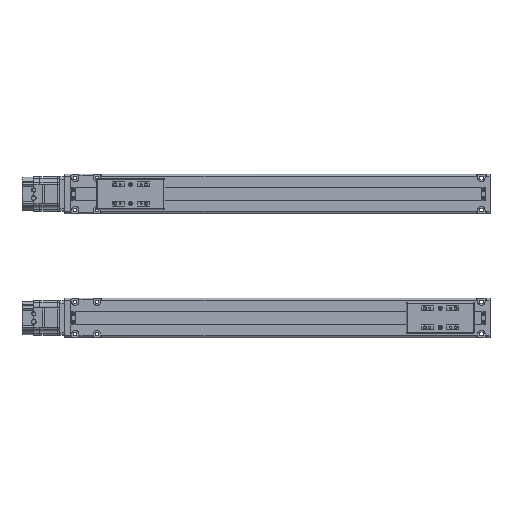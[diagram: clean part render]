
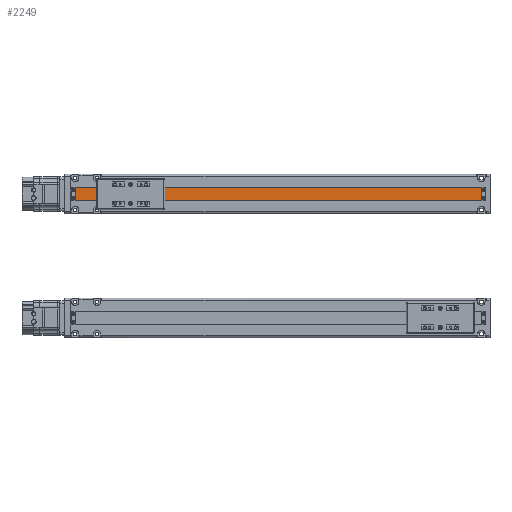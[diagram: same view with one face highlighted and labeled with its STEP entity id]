
A CAD part, top view. The second image highlights one B-rep face of the part: STEP entity #2249.
In plain terms, the highlighted planar face has unit normal (0, 0, 1).
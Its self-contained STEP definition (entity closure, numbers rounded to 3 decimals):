
#2249=ADVANCED_FACE('',(#6000),#6001,.T.);
#6000=FACE_OUTER_BOUND('',#11739,.T.);
#6001=PLANE('',#11740);
#11739=EDGE_LOOP('',(#20090,#20091,#20092,#20093));
#11740=AXIS2_PLACEMENT_3D('',#20094,#20095,#20096);
#20090=ORIENTED_EDGE('',*,*,#35107,.T.);
#20091=ORIENTED_EDGE('',*,*,#35377,.T.);
#20092=ORIENTED_EDGE('',*,*,#35378,.T.);
#20093=ORIENTED_EDGE('',*,*,#35379,.T.);
#20094=CARTESIAN_POINT('',(1358.5,-10.0,19.1));
#20095=DIRECTION('',(-0.0,0.,1.0));
#20096=DIRECTION('',(1.0,0.0,0.0));
#35107=EDGE_CURVE('',#41853,#41851,#41854,.T.);
#35377=EDGE_CURVE('',#41851,#42327,#42328,.T.);
#35378=EDGE_CURVE('',#42327,#42329,#42330,.T.);
#35379=EDGE_CURVE('',#42329,#41853,#42331,.T.);
#41851=VERTEX_POINT('',#51428);
#41853=VERTEX_POINT('',#51431);
#41854=LINE('',#51432,#51433);
#42327=VERTEX_POINT('',#52076);
#42328=LINE('',#52077,#52078);
#42329=VERTEX_POINT('',#52079);
#42330=LINE('',#52080,#52081);
#42331=LINE('',#52082,#52083);
#51428=CARTESIAN_POINT('',(1323.5,1.,19.1));
#51431=CARTESIAN_POINT('',(1980.5,1.,19.1));
#51432=CARTESIAN_POINT('',(1986.5,1.,19.1));
#51433=VECTOR('',#63510,1000.0);
#52076=CARTESIAN_POINT('',(1323.5,-21.0,19.1));
#52077=CARTESIAN_POINT('',(1323.5,-10.0,19.1));
#52078=VECTOR('',#63847,1000.0);
#52079=CARTESIAN_POINT('',(1980.5,-21.0,19.1));
#52080=CARTESIAN_POINT('',(1318.5,-21.0,19.1));
#52081=VECTOR('',#63848,1000.0);
#52082=CARTESIAN_POINT('',(1980.5,-10.0,19.1));
#52083=VECTOR('',#63849,1000.0);
#63510=DIRECTION('',(-1.0,0.0,0.0));
#63847=DIRECTION('',(0.0,-1.0,0.));
#63848=DIRECTION('',(1.0,0.0,0.0));
#63849=DIRECTION('',(0.0,1.0,0.));
